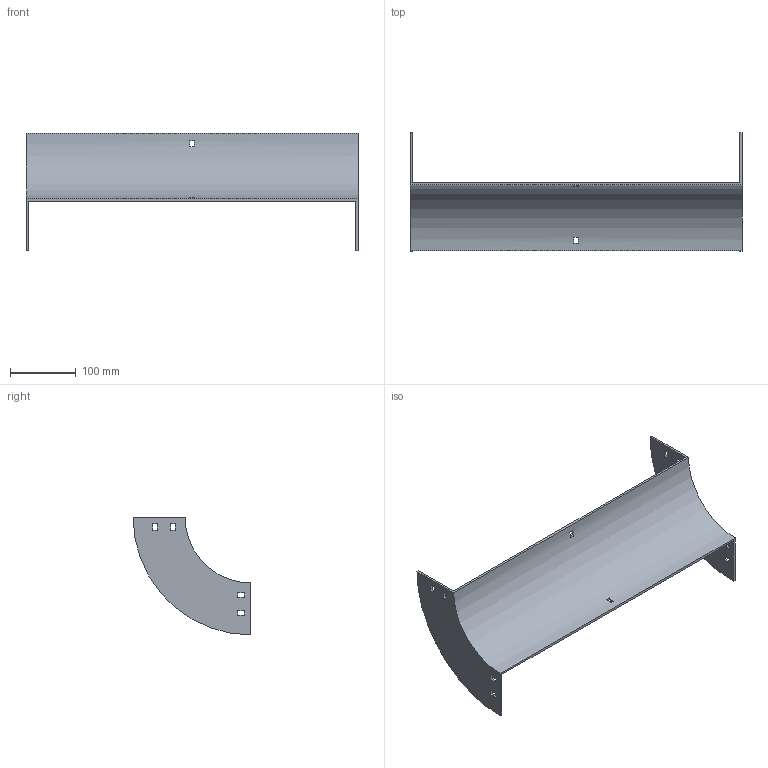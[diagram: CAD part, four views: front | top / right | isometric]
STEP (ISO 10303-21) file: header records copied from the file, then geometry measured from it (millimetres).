
FILE_DESCRIPTION (( 'STEP AP214' ), '1' );
FILE_NAME ('33B1C500.step', '2025-02-21T09:32:46', ( '' ), ( '' ), 'SwSTEP 2.0', 'SolidWorks 2023', '' );
FILE_SCHEMA (( 'AUTOMOTIVE_DESIGN' ));
Length unit declared in the file: millimetre
Products named in the file (1): 33B1C500
Bounding box: 504 x 179 x 179 mm (x, y, z)
Volume: 396823.3 mm3; surface area: 234462.2 mm2
Topology: 1 solids, 1 shells, 50 faces, 144 edges, 96 vertices
Faces by surface type: plane 46, cylinder 4
Entity records: 1687 total; most frequent: CARTESIAN_POINT 291, ORIENTED_EDGE 288, DIRECTION 262, EDGE_CURVE 144, VECTOR 128, LINE 128, VERTEX_POINT 96, EDGE_LOOP 70
